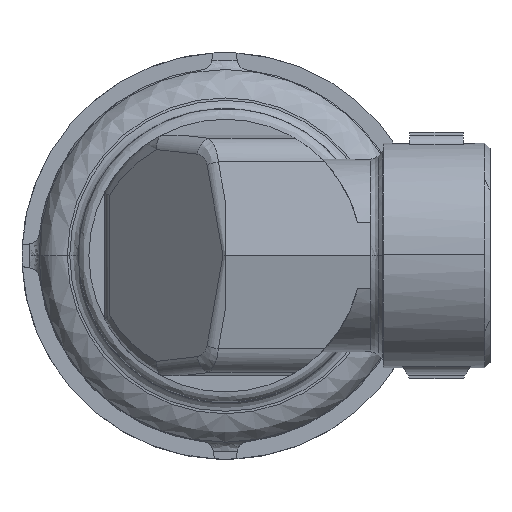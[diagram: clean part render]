
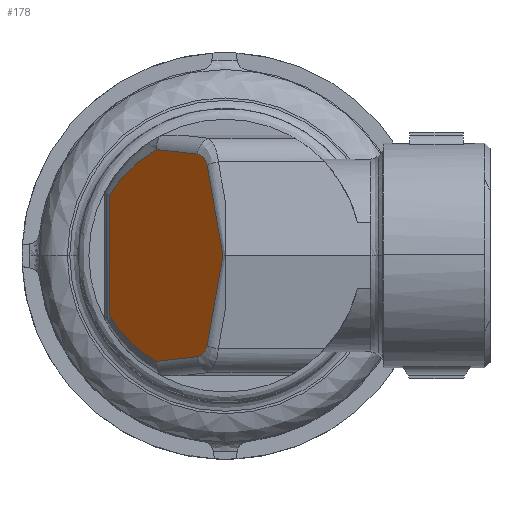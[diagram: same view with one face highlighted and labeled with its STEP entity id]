
A CAD part, top view. The second image highlights one B-rep face of the part: STEP entity #178.
In plain terms, the highlighted planar face has unit normal (-0.707, 0, 0.707).
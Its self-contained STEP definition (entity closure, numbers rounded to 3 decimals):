
#178=ADVANCED_FACE('',(#1628),#1627,.F.);
#1627=PLANE('',#3631);
#1628=FACE_OUTER_BOUND('',#3632,.T.);
#3628=CARTESIAN_POINT('',(1.695,-23.764,149.195));
#3629=DIRECTION('',(0.707,0.,-0.707));
#3630=DIRECTION('',(-0.707,0.,-0.707));
#3631=AXIS2_PLACEMENT_3D('',#3628,#3629,#3630);
#3632=EDGE_LOOP('',(#5033,#5034,#5035,#5036,#5037,#5038,#5039,#5040,#5041));
#5033=ORIENTED_EDGE('',*,*,#5457,.T.);
#5034=ORIENTED_EDGE('',*,*,#5745,.T.);
#5035=ORIENTED_EDGE('',*,*,#5461,.T.);
#5036=ORIENTED_EDGE('',*,*,#5640,.T.);
#5037=ORIENTED_EDGE('',*,*,#5741,.T.);
#5038=ORIENTED_EDGE('',*,*,#5744,.T.);
#5039=ORIENTED_EDGE('',*,*,#5747,.T.);
#5040=ORIENTED_EDGE('',*,*,#5467,.T.);
#5041=ORIENTED_EDGE('',*,*,#5771,.T.);
#5457=EDGE_CURVE('',#6302,#6295,#6303,.T.);
#5461=EDGE_CURVE('',#6329,#6330,#6331,.T.);
#5467=EDGE_CURVE('',#6371,#6364,#6372,.T.);
#5640=EDGE_CURVE('',#6330,#7530,#7537,.T.);
#5741=EDGE_CURVE('',#7530,#8196,#8203,.T.);
#5744=EDGE_CURVE('',#8196,#8216,#8223,.T.);
#5745=EDGE_CURVE('',#6295,#6329,#8229,.T.);
#5747=EDGE_CURVE('',#8216,#6371,#8241,.T.);
#5771=EDGE_CURVE('',#6364,#6302,#8390,.T.);
#6295=VERTEX_POINT('',#9670);
#6302=VERTEX_POINT('',#9683);
#6303=(BOUNDED_CURVE() B_SPLINE_CURVE(2,(#9684,#9685,#9686),.UNSPECIFIED.,.F.,.F.) B_SPLINE_CURVE_WITH_KNOTS((3,3),(-1.076,-0.522),.UNSPECIFIED.) CURVE() GEOMETRIC_REPRESENTATION_ITEM() RATIONAL_B_SPLINE_CURVE((1.,0.962,1.)) REPRESENTATION_ITEM('') );
#6329=VERTEX_POINT('',#9712);
#6330=VERTEX_POINT('',#9713);
#6331=(BOUNDED_CURVE() B_SPLINE_CURVE(2,(#9714,#9715,#9716),.UNSPECIFIED.,.F.,.F.) B_SPLINE_CURVE_WITH_KNOTS((3,3),(0.522,1.076),.UNSPECIFIED.) CURVE() GEOMETRIC_REPRESENTATION_ITEM() RATIONAL_B_SPLINE_CURVE((1.,0.962,1.)) REPRESENTATION_ITEM('') );
#6364=VERTEX_POINT('',#9755);
#6371=VERTEX_POINT('',#9774);
#6372=(BOUNDED_CURVE() B_SPLINE_CURVE(2,(#9775,#9776,#9777),.UNSPECIFIED.,.F.,.F.) B_SPLINE_CURVE_WITH_KNOTS((3,3),(0.175,1.292),.UNSPECIFIED.) CURVE() GEOMETRIC_REPRESENTATION_ITEM() RATIONAL_B_SPLINE_CURVE((1.,0.848,1.)) REPRESENTATION_ITEM('') );
#7530=VERTEX_POINT('',#10807);
#7537=LINE('',#10826,#10827);
#8196=VERTEX_POINT('',#11342);
#8203=(BOUNDED_CURVE() B_SPLINE_CURVE(2,(#11347,#11348,#11349),.UNSPECIFIED.,.F.,.F.) B_SPLINE_CURVE_WITH_KNOTS((3,3),(-1.292,-0.175),.UNSPECIFIED.) CURVE() GEOMETRIC_REPRESENTATION_ITEM() RATIONAL_B_SPLINE_CURVE((1.,0.848,1.)) REPRESENTATION_ITEM('') );
#8216=VERTEX_POINT('',#11354);
#8223=LINE('',#11358,#11359);
#8229=LINE('',#11361,#11362);
#8241=LINE('',#11367,#11368);
#8390=LINE('',#11485,#11486);
#9670=CARTESIAN_POINT('',(-21.621,11.225,125.879));
#9683=CARTESIAN_POINT('',(-12.802,19.803,134.698));
#9684=CARTESIAN_POINT('',(-12.802,19.803,134.698));
#9685=CARTESIAN_POINT('',(-18.431,16.767,129.069));
#9686=CARTESIAN_POINT('',(-21.621,11.225,125.879));
#9712=CARTESIAN_POINT('',(-21.621,-11.225,125.879));
#9713=CARTESIAN_POINT('',(-12.802,-19.803,134.698));
#9714=CARTESIAN_POINT('',(-21.621,-11.225,125.879));
#9715=CARTESIAN_POINT('',(-18.431,-16.767,129.069));
#9716=CARTESIAN_POINT('',(-12.802,-19.803,134.698));
#9755=CARTESIAN_POINT('',(-5.188,18.921,142.312));
#9774=CARTESIAN_POINT('',(-3.414,16.952,144.086));
#9775=CARTESIAN_POINT('',(-3.414,16.952,144.086));
#9776=CARTESIAN_POINT('',(-3.685,18.491,143.815));
#9777=CARTESIAN_POINT('',(-5.188,18.921,142.312));
#10807=CARTESIAN_POINT('',(-5.188,-18.921,142.312));
#10826=CARTESIAN_POINT('',(-12.802,-19.803,134.698));
#10827=VECTOR('',#10828,10.804);
#10828=DIRECTION('',(0.705,0.082,0.705));
#11342=CARTESIAN_POINT('',(-3.414,-16.952,144.086));
#11347=CARTESIAN_POINT('',(-5.188,-18.921,142.312));
#11348=CARTESIAN_POINT('',(-3.685,-18.491,143.815));
#11349=CARTESIAN_POINT('',(-3.414,-16.952,144.086));
#11354=CARTESIAN_POINT('',(-0.425,0.,147.075));
#11358=CARTESIAN_POINT('',(-3.414,-16.952,144.086));
#11359=VECTOR('',#11360,17.471);
#11360=DIRECTION('',(0.171,0.97,0.171));
#11361=CARTESIAN_POINT('',(-21.621,11.225,125.879));
#11362=VECTOR('',#11363,22.45);
#11363=DIRECTION('',(0.,-1.,0.));
#11367=CARTESIAN_POINT('',(-0.425,0.,147.075));
#11368=VECTOR('',#11369,17.471);
#11369=DIRECTION('',(-0.171,0.97,-0.171));
#11485=CARTESIAN_POINT('',(-5.188,18.921,142.312));
#11486=VECTOR('',#11487,10.804);
#11487=DIRECTION('',(-0.705,0.082,-0.705));
